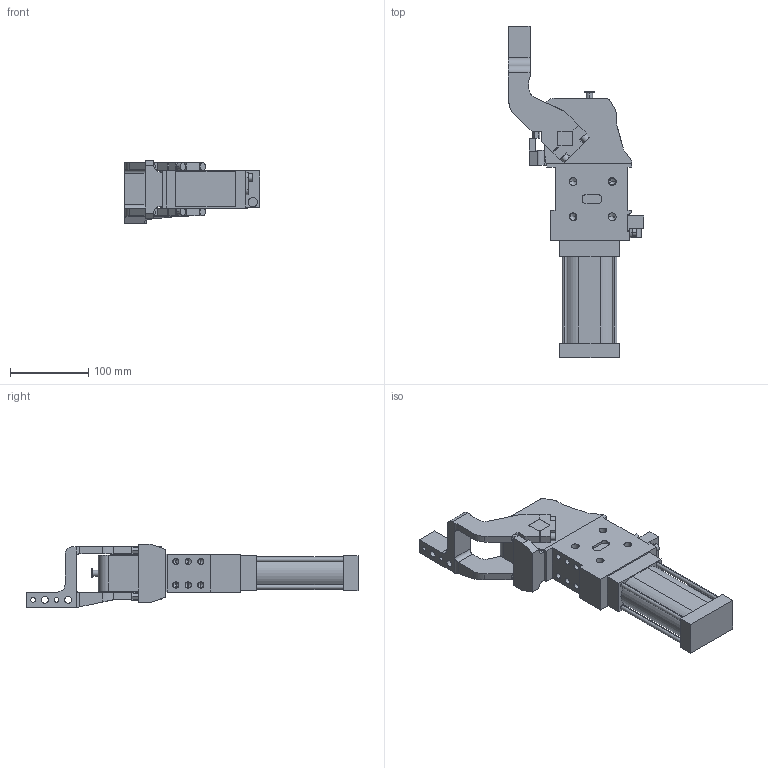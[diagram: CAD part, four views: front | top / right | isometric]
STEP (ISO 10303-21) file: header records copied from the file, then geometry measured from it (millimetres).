
FILE_DESCRIPTION (( 'STEP AP214' ), '1' );
FILE_NAME ('cpl50th3di1g_107.STEP', '2023-01-26T10:04:19', ( '' ), ( '' ), 'SwSTEP 2.0', 'SolidWorks 2022', '' );
FILE_SCHEMA (( 'AUTOMOTIVE_DESIGN' ));
Length unit declared in the file: millimetre
Products named in the file (4): blocchetto_VEP_0; meccanica_cpl_50_tassello_esterno; leva_h3d_cpl50t; cpl50th3di1g_107
Assembly tree (3 placements, depth 2):
  cpl50th3di1g_107
    meccanica_cpl_50_tassello_esterno
    blocchetto_VEP_0
    leva_h3d_cpl50t
Bounding box: 173.5 x 424.5 x 81 mm (x, y, z)
Volume: 1433262.2 mm3; surface area: 173936.3 mm2
Topology: 3 solids, 3 shells, 436 faces, 1134 edges, 709 vertices
Faces by surface type: plane 228, cylinder 158, cone 50
Entity records: 14587 total; most frequent: CARTESIAN_POINT 2354, DIRECTION 2277, ORIENTED_EDGE 2176, EDGE_CURVE 1088, AXIS2_PLACEMENT_3D 766, VECTOR 745, LINE 745, VERTEX_POINT 709
